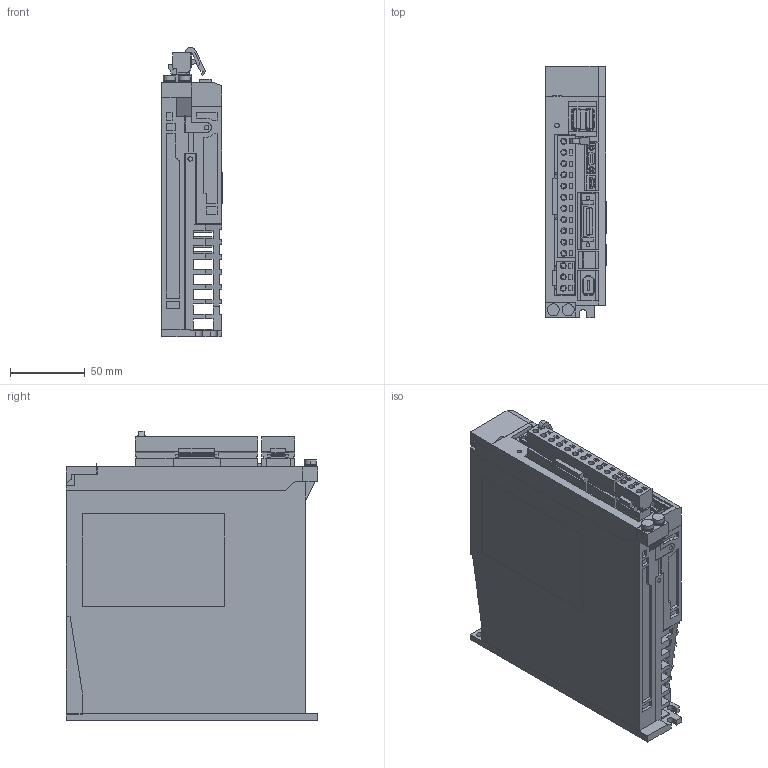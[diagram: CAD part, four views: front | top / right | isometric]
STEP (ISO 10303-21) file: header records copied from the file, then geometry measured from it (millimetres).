
FILE_DESCRIPTION (( 'STEP AP203' ), '1' );
FILE_NAME ('sgd7s_2r8a10a.STEP', '2014-03-06T04:30:25', ( '匠エンジニアリング山之内' ), ( 'TAKUMI-Engniaring' ), 'SwSTEP 2.0', 'SolidWorks 2006303', '' );
FILE_SCHEMA (( 'CONFIG_CONTROL_DESIGN' ));
Products named in the file (9): sgd7s_2r8a10a_connector; sgd7s_2r8a10a_connector_3; sgd7s_2r8a10a; sgd7s_2r8a10a_base; sgd7s_2r8a10a_connector_2; sgd7s_2r8a10a_pin; sgd7s_2r8a10a_connector_1; sgd7s_2r8a10a_cover; sgd7s_2r8a10a_cover2
Assembly tree (9 placements, depth 3):
  sgd7s_2r8a10a
    sgd7s_2r8a10a_connector
      sgd7s_2r8a10a_pin
      sgd7s_2r8a10a_connector_2
    sgd7s_2r8a10a_cover2  x2
    sgd7s_2r8a10a_connector_3
    sgd7s_2r8a10a_base
    sgd7s_2r8a10a_connector_1
    sgd7s_2r8a10a_cover
Bounding box: 40.5 x 168 x 193.83 mm (x, y, z)
Volume: 938355.4 mm3; surface area: 169277.5 mm2
Topology: 8 solids, 8 shells, 1717 faces, 4588 edges, 3024 vertices
Faces by surface type: plane 1570, cylinder 142, cone 4, sphere 1
Entity records: 52937 total; most frequent: CARTESIAN_POINT 9231, ORIENTED_EDGE 9068, DIRECTION 8244, EDGE_CURVE 4534, LINE 4242, VECTOR 4242, VERTEX_POINT 2988, AXIS2_PLACEMENT_3D 2001
